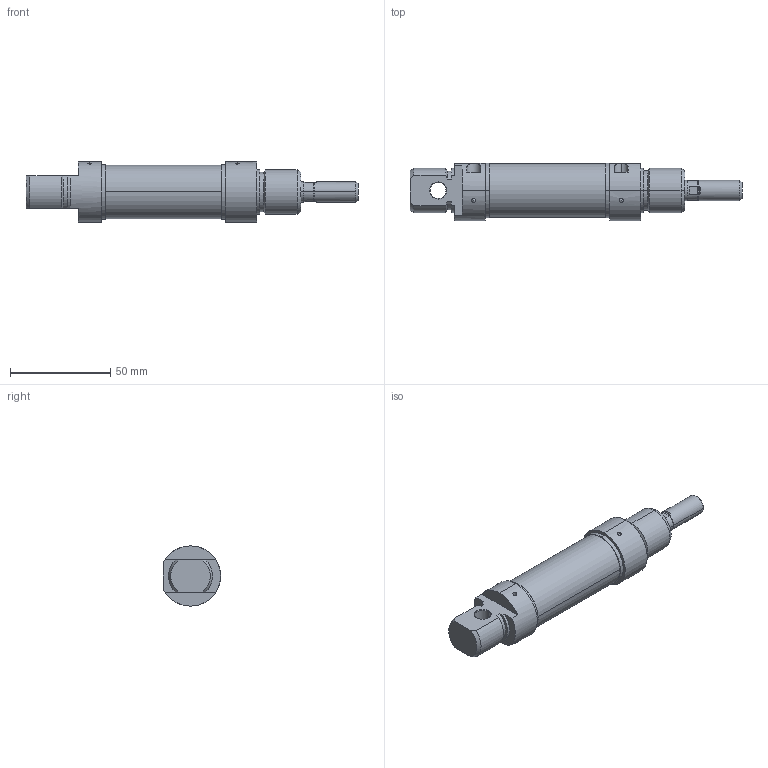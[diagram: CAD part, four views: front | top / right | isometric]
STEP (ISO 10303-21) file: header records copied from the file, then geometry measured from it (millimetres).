
FILE_DESCRIPTION (( 'STEP AP203' ), '1' );
FILE_NAME ('MH0250025A.step', '2012-10-17T16:40:13', ( '' ), ( '' ), 'SwSTEP 2.0', 'SolidWorks 2012', '' );
FILE_SCHEMA (( 'CONFIG_CONTROL_DESIGN' ));
Length unit declared in the file: millimetre
Products named in the file (1): MH0250025A
Bounding box: 165.5 x 28.5 x 30 mm (x, y, z)
Volume: 60424.9 mm3; surface area: 18989.5 mm2
Topology: 7 solids, 9 shells, 253 faces, 579 edges, 360 vertices
Faces by surface type: cylinder 101, plane 66, cone 54, torus 28, sphere 4
Entity records: 7636 total; most frequent: CARTESIAN_POINT 1733, DIRECTION 1327, ORIENTED_EDGE 1138, EDGE_CURVE 569, AXIS2_PLACEMENT_3D 554, VERTEX_POINT 354, CIRCLE 300, EDGE_LOOP 287
